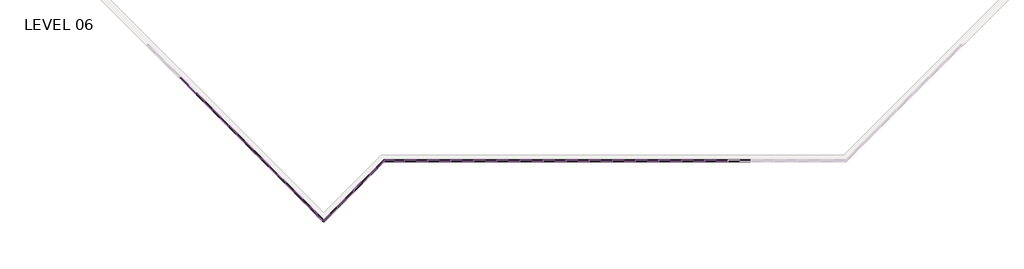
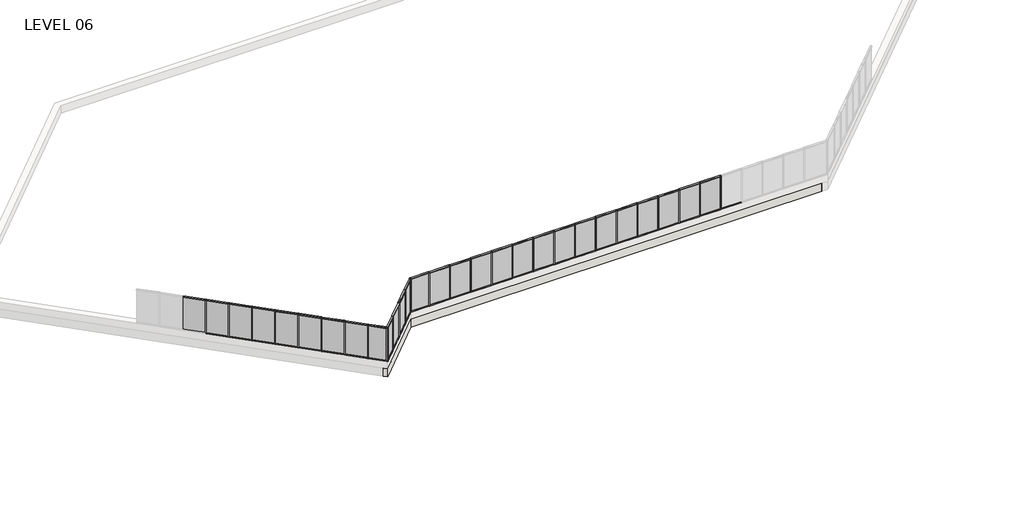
# One storey, part 1 of 17: 86 members, 28 plates, 2 walls.
"""IFC4 building model written with IfcOpenShell, lengths in millimetres."""

from ifc_helpers import new_model, si_unit, origin, place, context, project, spatial, faceted_brep, transform, mapped, element, save
from components import member_5247f267, member_e44af9ab, member_800970d4, member_c23f844a, member_45eb7f2e, member_ed9c17d6, member_53409b32, member_43bac76b, member_0b71a88d, plate_67294edd, plate_50b9cd61, plate_9c66726c, plate_dca6a18a, plate_903242d9, plate_0d1907f3, plate_15429445

model = new_model("IFC4")

# Units and contexts
model_context = context("Model", 3, world=origin())
ifc_project = project(units=[si_unit("LENGTHUNIT", "METRE", prefix="MILLI")], contexts=[model_context])

# Site, building, storey
site = spatial("IfcSite", under=ifc_project)
building = spatial("IfcBuilding", under=site)
storey = spatial("IfcBuildingStorey", under=building, Name="LEVEL 06", Elevation=19596.1)

# Members
placement = place(None, origin())
member_shape = member_5247f267(model_context)
element("IfcMember", 1, ObjectType="Rectangular Mullion : 2\" x 4.5\" rectangular", at=placement, inside=storey, context=model_context, shape_type="MappedRepresentation", body=[
    mapped(member_shape, transform((19945.35, -5092.0171279, 19596.1), x_axis=(0.0, 0.0, -1.0), y_axis=(0.0, -1.0, 0.0), z_axis=(-1.0, 0.0, 0.0))),
])
element("IfcMember", 2, ObjectType="Rectangular Mullion : 2\" x 4.5\" rectangular", at=placement, inside=storey, context=model_context, shape_type="MappedRepresentation", body=[
    mapped(member_shape, transform((21469.35, -5092.0171279, 19596.1), x_axis=(0.0, 0.0, -1.0), y_axis=(0.0, -1.0, 0.0), z_axis=(-1.0, 0.0, 0.0))),
])
element("IfcMember", 3, ObjectType="Rectangular Mullion : 2\" x 4.5\" rectangular", at=placement, inside=storey, context=model_context, shape_type="MappedRepresentation", body=[
    mapped(member_shape, transform((22993.35, -5092.0171279, 19596.1), x_axis=(0.0, 0.0, -1.0), y_axis=(0.0, -1.0, 0.0), z_axis=(-1.0, 0.0, 0.0))),
])
element("IfcMember", 4, ObjectType="Rectangular Mullion : 2\" x 4.5\" rectangular", at=placement, inside=storey, context=model_context, shape_type="MappedRepresentation", body=[
    mapped(member_shape, transform((29089.35, -5092.0171279, 19596.1), x_axis=(0.0, 0.0, -1.0), y_axis=(0.0, -1.0, 0.0), z_axis=(-1.0, 0.0, 0.0))),
])
element("IfcMember", 5, ObjectType="Rectangular Mullion : 2\" x 4.5\" rectangular", at=placement, inside=storey, context=model_context, shape_type="MappedRepresentation", body=[
    mapped(member_shape, transform((30613.35, -5092.0171279, 19596.1), x_axis=(0.0, 0.0, -1.0), y_axis=(0.0, -1.0, 0.0), z_axis=(-1.0, 0.0, 0.0))),
])
element("IfcMember", 6, ObjectType="Rectangular Mullion : 2\" x 4.5\" rectangular", at=placement, inside=storey, context=model_context, shape_type="MappedRepresentation", body=[
    mapped(member_shape, transform((32137.35, -5092.0171279, 19596.1), x_axis=(0.0, 0.0, -1.0), y_axis=(0.0, -1.0, 0.0), z_axis=(-1.0, 0.0, 0.0))),
])
element("IfcMember", 7, ObjectType="Rectangular Mullion : 2\" x 4.5\" rectangular", at=placement, inside=storey, context=model_context, shape_type="MappedRepresentation", body=[
    mapped(member_shape, transform((35185.35, -5092.0171279, 19596.1), x_axis=(0.0, 0.0, -1.0), y_axis=(0.0, -1.0, 0.0), z_axis=(-1.0, 0.0, 0.0))),
])
element("IfcMember", 8, ObjectType="Rectangular Mullion : 2\" x 4.5\" rectangular", at=placement, inside=storey, context=model_context, shape_type="MappedRepresentation", body=[
    mapped(member_shape, transform((36709.35, -5092.0171279, 19596.1), x_axis=(0.0, 0.0, -1.0), y_axis=(0.0, -1.0, 0.0), z_axis=(-1.0, 0.0, 0.0))),
])
element("IfcMember", 9, ObjectType="Rectangular Mullion : 2\" x 4.5\" rectangular", at=placement, inside=storey, context=model_context, shape_type="MappedRepresentation", body=[
    mapped(member_shape, transform((39757.35, -5092.0171279, 19596.1), x_axis=(0.0, 0.0, -1.0), y_axis=(0.0, -1.0, 0.0), z_axis=(-1.0, 0.0, 0.0))),
])
element("IfcMember", 10, ObjectType="Rectangular Mullion : 2\" x 4.5\" rectangular", at=placement, inside=storey, context=model_context, shape_type="MappedRepresentation", body=[
    mapped(member_shape, transform((24517.35, -5092.0171279, 19596.1), x_axis=(0.0, 0.0, -1.0), y_axis=(0.0, -1.0, 0.0), z_axis=(-1.0, 0.0, 0.0))),
])
element("IfcMember", 11, ObjectType="Rectangular Mullion : 2\" x 4.5\" rectangular", at=placement, inside=storey, context=model_context, shape_type="MappedRepresentation", body=[
    mapped(member_shape, transform((27565.35, -5092.0171279, 19596.1), x_axis=(0.0, 0.0, -1.0), y_axis=(0.0, -1.0, 0.0), z_axis=(-1.0, 0.0, 0.0))),
])
element("IfcMember", 12, ObjectType="Rectangular Mullion : 2\" x 4.5\" rectangular", at=placement, inside=storey, context=model_context, shape_type="MappedRepresentation", body=[
    mapped(member_shape, transform((26041.35, -5092.0171279, 19596.1), x_axis=(0.0, 0.0, -1.0), y_axis=(0.0, -1.0, 0.0), z_axis=(-1.0, 0.0, 0.0))),
])
element("IfcMember", 13, ObjectType="Rectangular Mullion : 2\" x 4.5\" rectangular", at=placement, inside=storey, context=model_context, shape_type="MappedRepresentation", body=[
    mapped(member_shape, transform((38233.35, -5092.0171279, 19596.1), x_axis=(0.0, 0.0, -1.0), y_axis=(0.0, -1.0, 0.0), z_axis=(-1.0, 0.0, 0.0))),
])
element("IfcMember", 14, ObjectType="Rectangular Mullion : 2\" x 4.5\" rectangular", at=placement, inside=storey, context=model_context, shape_type="MappedRepresentation", body=[
    mapped(member_shape, transform((33661.35, -5092.0171279, 19596.1), x_axis=(0.0, 0.0, -1.0), y_axis=(0.0, -1.0, 0.0), z_axis=(-1.0, 0.0, 0.0))),
])
element("IfcMember", 15, ObjectType="Rectangular Mullion : 2\" x 4.5\" rectangular", at=placement, inside=storey, context=model_context, shape_type="MappedRepresentation", body=[
    mapped(member_shape, transform((41281.35, -5092.0171279, 19596.1), x_axis=(0.0, 0.0, -1.0), y_axis=(0.0, -1.0, 0.0), z_axis=(-1.0, 0.0, 0.0))),
])
element("IfcMember", 16, ObjectType="Rectangular Mullion : 2\" x 4.5\" rectangular", at=placement, inside=storey, context=model_context, shape_type="MappedRepresentation", body=[
    mapped(member_shape, transform((9409.6310836, -3891.4043471, 19596.1), x_axis=(0.0, 0.0, -1.0), y_axis=(-0.707106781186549, -0.7071067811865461, 0.0), z_axis=(-0.7071067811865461, 0.707106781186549, 0.0))),
])
element("IfcMember", 17, ObjectType="Rectangular Mullion : 2\" x 4.5\" rectangular", at=placement, inside=storey, context=model_context, shape_type="MappedRepresentation", body=[
    mapped(member_shape, transform((10487.2618181, -4969.0350816, 19596.1), x_axis=(0.0, 0.0, -1.0), y_axis=(-0.707106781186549, -0.7071067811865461, 0.0), z_axis=(-0.7071067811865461, 0.707106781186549, 0.0))),
])
element("IfcMember", 18, ObjectType="Rectangular Mullion : 2\" x 4.5\" rectangular", at=placement, inside=storey, context=model_context, shape_type="MappedRepresentation", body=[
    mapped(member_shape, transform((11564.8925527, -6046.6658162, 19596.1), x_axis=(0.0, 0.0, -1.0), y_axis=(-0.707106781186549, -0.7071067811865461, 0.0), z_axis=(-0.7071067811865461, 0.707106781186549, 0.0))),
])
element("IfcMember", 19, ObjectType="Rectangular Mullion : 2\" x 4.5\" rectangular", at=placement, inside=storey, context=model_context, shape_type="MappedRepresentation", body=[
    mapped(member_shape, transform((12642.5232872, -7124.2965507, 19596.1), x_axis=(0.0, 0.0, -1.0), y_axis=(-0.7071067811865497, -0.7071067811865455, 0.0), z_axis=(-0.7071067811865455, 0.7071067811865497, 0.0))),
])
element("IfcMember", 20, ObjectType="Rectangular Mullion : 2\" x 4.5\" rectangular", at=placement, inside=storey, context=model_context, shape_type="MappedRepresentation", body=[
    mapped(member_shape, transform((16592.327111, -7061.3461525, 19596.1), x_axis=(0.0, 0.0, -1.0), y_axis=(0.7071067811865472, -0.7071067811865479, 0.0), z_axis=(-0.7071067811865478, -0.7071067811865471, 0.0))),
])
element("IfcMember", 21, ObjectType="Rectangular Mullion : 2\" x 4.5\" rectangular", at=placement, inside=storey, context=model_context, shape_type="MappedRepresentation", body=[
    mapped(member_shape, transform((15514.6963765, -8138.976887, 19596.1), x_axis=(0.0, 0.0, -1.0), y_axis=(0.7071067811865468, -0.7071067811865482, 0.0), z_axis=(-0.7071067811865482, -0.7071067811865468, 0.0))),
])
element("IfcMember", 22, ObjectType="Rectangular Mullion : 2\" x 4.5\" rectangular", at=placement, inside=storey, context=model_context, shape_type="MappedRepresentation", body=[
    mapped(member_shape, transform((21418.55, -5092.0171279, 22186.9), x_axis=(0.0, 0.0, 1.0), y_axis=(0.0, -1.0, 0.0), z_axis=(1.0, 0.0, 0.0))),
])
element("IfcMember", 23, ObjectType="Rectangular Mullion : 2\" x 4.5\" rectangular", at=placement, inside=storey, context=model_context, shape_type="MappedRepresentation", body=[
    mapped(member_shape, transform((22942.55, -5092.0171279, 22186.9), x_axis=(0.0, 0.0, 1.0), y_axis=(0.0, -1.0, 0.0), z_axis=(1.0, 0.0, 0.0))),
])
element("IfcMember", 24, ObjectType="Rectangular Mullion : 2\" x 4.5\" rectangular", at=placement, inside=storey, context=model_context, shape_type="MappedRepresentation", body=[
    mapped(member_shape, transform((29038.55, -5092.0171279, 22186.9), x_axis=(0.0, 0.0, 1.0), y_axis=(0.0, -1.0, 0.0), z_axis=(1.0, 0.0, 0.0))),
])
element("IfcMember", 25, ObjectType="Rectangular Mullion : 2\" x 4.5\" rectangular", at=placement, inside=storey, context=model_context, shape_type="MappedRepresentation", body=[
    mapped(member_shape, transform((30562.55, -5092.0171279, 22186.9), x_axis=(0.0, 0.0, 1.0), y_axis=(0.0, -1.0, 0.0), z_axis=(1.0, 0.0, 0.0))),
])
element("IfcMember", 26, ObjectType="Rectangular Mullion : 2\" x 4.5\" rectangular", at=placement, inside=storey, context=model_context, shape_type="MappedRepresentation", body=[
    mapped(member_shape, transform((32086.55, -5092.0171279, 22186.9), x_axis=(0.0, 0.0, 1.0), y_axis=(0.0, -1.0, 0.0), z_axis=(1.0, 0.0, 0.0))),
])
element("IfcMember", 27, ObjectType="Rectangular Mullion : 2\" x 4.5\" rectangular", at=placement, inside=storey, context=model_context, shape_type="MappedRepresentation", body=[
    mapped(member_shape, transform((35134.55, -5092.0171279, 22186.9), x_axis=(0.0, 0.0, 1.0), y_axis=(0.0, -1.0, 0.0), z_axis=(1.0, 0.0, 0.0))),
])
element("IfcMember", 28, ObjectType="Rectangular Mullion : 2\" x 4.5\" rectangular", at=placement, inside=storey, context=model_context, shape_type="MappedRepresentation", body=[
    mapped(member_shape, transform((36658.55, -5092.0171279, 22186.9), x_axis=(0.0, 0.0, 1.0), y_axis=(0.0, -1.0, 0.0), z_axis=(1.0, 0.0, 0.0))),
])
element("IfcMember", 29, ObjectType="Rectangular Mullion : 2\" x 4.5\" rectangular", at=placement, inside=storey, context=model_context, shape_type="MappedRepresentation", body=[
    mapped(member_shape, transform((39706.55, -5092.0171279, 22186.9), x_axis=(0.0, 0.0, 1.0), y_axis=(0.0, -1.0, 0.0), z_axis=(1.0, 0.0, 0.0))),
])
element("IfcMember", 30, ObjectType="Rectangular Mullion : 2\" x 4.5\" rectangular", at=placement, inside=storey, context=model_context, shape_type="MappedRepresentation", body=[
    mapped(member_shape, transform((24466.55, -5092.0171279, 22186.9), x_axis=(0.0, 0.0, 1.0), y_axis=(0.0, -1.0, 0.0), z_axis=(1.0, 0.0, 0.0))),
])
element("IfcMember", 31, ObjectType="Rectangular Mullion : 2\" x 4.5\" rectangular", at=placement, inside=storey, context=model_context, shape_type="MappedRepresentation", body=[
    mapped(member_shape, transform((27514.55, -5092.0171279, 22186.9), x_axis=(0.0, 0.0, 1.0), y_axis=(0.0, -1.0, 0.0), z_axis=(1.0, 0.0, 0.0))),
])
element("IfcMember", 32, ObjectType="Rectangular Mullion : 2\" x 4.5\" rectangular", at=placement, inside=storey, context=model_context, shape_type="MappedRepresentation", body=[
    mapped(member_shape, transform((25990.55, -5092.0171279, 22186.9), x_axis=(0.0, 0.0, 1.0), y_axis=(0.0, -1.0, 0.0), z_axis=(1.0, 0.0, 0.0))),
])
element("IfcMember", 33, ObjectType="Rectangular Mullion : 2\" x 4.5\" rectangular", at=placement, inside=storey, context=model_context, shape_type="MappedRepresentation", body=[
    mapped(member_shape, transform((38182.55, -5092.0171279, 22186.9), x_axis=(0.0, 0.0, 1.0), y_axis=(0.0, -1.0, 0.0), z_axis=(1.0, 0.0, 0.0))),
])
element("IfcMember", 34, ObjectType="Rectangular Mullion : 2\" x 4.5\" rectangular", at=placement, inside=storey, context=model_context, shape_type="MappedRepresentation", body=[
    mapped(member_shape, transform((33610.55, -5092.0171279, 22186.9), x_axis=(0.0, 0.0, 1.0), y_axis=(0.0, -1.0, 0.0), z_axis=(1.0, 0.0, 0.0))),
])
element("IfcMember", 35, ObjectType="Rectangular Mullion : 2\" x 4.5\" rectangular", at=placement, inside=storey, context=model_context, shape_type="MappedRepresentation", body=[
    mapped(member_shape, transform((41230.55, -5092.0171279, 22186.9), x_axis=(0.0, 0.0, 1.0), y_axis=(0.0, -1.0, 0.0), z_axis=(1.0, 0.0, 0.0))),
])
element("IfcMember", 36, ObjectType="Rectangular Mullion : 2\" x 4.5\" rectangular", at=placement, inside=storey, context=model_context, shape_type="MappedRepresentation", body=[
    mapped(member_shape, transform((10451.3407936, -4933.1140572, 22186.9), x_axis=(0.0, 0.0, 1.0), y_axis=(-0.707106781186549, -0.7071067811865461, 0.0), z_axis=(0.7071067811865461, -0.707106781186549, 0.0))),
])
element("IfcMember", 37, ObjectType="Rectangular Mullion : 2\" x 4.5\" rectangular", at=placement, inside=storey, context=model_context, shape_type="MappedRepresentation", body=[
    mapped(member_shape, transform((11528.9715282, -6010.7447917, 22186.9), x_axis=(0.0, 0.0, 1.0), y_axis=(-0.707106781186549, -0.7071067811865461, 0.0), z_axis=(0.7071067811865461, -0.707106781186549, 0.0))),
])
element("IfcMember", 38, ObjectType="Rectangular Mullion : 2\" x 4.5\" rectangular", at=placement, inside=storey, context=model_context, shape_type="MappedRepresentation", body=[
    mapped(member_shape, transform((12606.6022627, -7088.3755262, 22186.9), x_axis=(0.0, 0.0, 1.0), y_axis=(-0.707106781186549, -0.7071067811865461, 0.0), z_axis=(0.7071067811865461, -0.707106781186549, 0.0))),
])
element("IfcMember", 39, ObjectType="Rectangular Mullion : 2\" x 4.5\" rectangular", at=placement, inside=storey, context=model_context, shape_type="MappedRepresentation", body=[
    mapped(member_shape, transform((13684.2329972, -8166.0062607, 22186.9), x_axis=(0.0, 0.0, 1.0), y_axis=(-0.7071067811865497, -0.7071067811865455, 0.0), z_axis=(0.7071067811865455, -0.7071067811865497, 0.0))),
])
element("IfcMember", 40, ObjectType="Rectangular Mullion : 2\" x 4.5\" rectangular", at=placement, inside=storey, context=model_context, shape_type="MappedRepresentation", body=[
    mapped(member_shape, transform((16556.4060865, -7097.267177, 22186.9), x_axis=(0.0, 0.0, 1.0), y_axis=(0.7071067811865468, -0.7071067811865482, 0.0), z_axis=(0.7071067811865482, 0.7071067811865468, 0.0))),
])
element("IfcMember", 41, ObjectType="Rectangular Mullion : 2\" x 4.5\" rectangular", at=placement, inside=storey, context=model_context, shape_type="MappedRepresentation", body=[
    mapped(member_shape, transform((17634.036821, -6019.6364425, 22186.9), x_axis=(0.0, 0.0, 1.0), y_axis=(0.7071067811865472, -0.7071067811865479, 0.0), z_axis=(0.7071067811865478, 0.7071067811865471, 0.0))),
])
member_2_shape = member_e44af9ab(model_context)
element("IfcMember", 42, ObjectType="Rectangular Mullion : 2\" x 4.5\" rectangular", at=placement, inside=storey, context=model_context, shape_type="MappedRepresentation", body=[
    mapped(member_2_shape, transform((19919.95, -5092.0171279, 19596.1), x_axis=(1.0, 0.0, 0.0), y_axis=(0.0, -1.0, 0.0), z_axis=(0.0, 0.0, -1.0))),
])
element("IfcMember", 43, ObjectType="Rectangular Mullion : 2\" x 4.5\" rectangular", at=placement, inside=storey, context=model_context, shape_type="MappedRepresentation", body=[
    mapped(member_2_shape, transform((21443.95, -5092.0171279, 19596.1), x_axis=(1.0, 0.0, 0.0), y_axis=(0.0, -1.0, 0.0), z_axis=(0.0, 0.0, -1.0))),
])
element("IfcMember", 44, ObjectType="Rectangular Mullion : 2\" x 4.5\" rectangular", at=placement, inside=storey, context=model_context, shape_type="MappedRepresentation", body=[
    mapped(member_2_shape, transform((22967.95, -5092.0171279, 19596.1), x_axis=(1.0, 0.0, 0.0), y_axis=(0.0, -1.0, 0.0), z_axis=(0.0, 0.0, -1.0))),
])
element("IfcMember", 45, ObjectType="Rectangular Mullion : 2\" x 4.5\" rectangular", at=placement, inside=storey, context=model_context, shape_type="MappedRepresentation", body=[
    mapped(member_2_shape, transform((29063.95, -5092.0171279, 19596.1), x_axis=(1.0, 0.0, 0.0), y_axis=(0.0, -1.0, 0.0), z_axis=(0.0, 0.0, -1.0))),
])
element("IfcMember", 46, ObjectType="Rectangular Mullion : 2\" x 4.5\" rectangular", at=placement, inside=storey, context=model_context, shape_type="MappedRepresentation", body=[
    mapped(member_2_shape, transform((30587.95, -5092.0171279, 19596.1), x_axis=(1.0, 0.0, 0.0), y_axis=(0.0, -1.0, 0.0), z_axis=(0.0, 0.0, -1.0))),
])
element("IfcMember", 47, ObjectType="Rectangular Mullion : 2\" x 4.5\" rectangular", at=placement, inside=storey, context=model_context, shape_type="MappedRepresentation", body=[
    mapped(member_2_shape, transform((32111.95, -5092.0171279, 19596.1), x_axis=(1.0, 0.0, 0.0), y_axis=(0.0, -1.0, 0.0), z_axis=(0.0, 0.0, -1.0))),
])
element("IfcMember", 48, ObjectType="Rectangular Mullion : 2\" x 4.5\" rectangular", at=placement, inside=storey, context=model_context, shape_type="MappedRepresentation", body=[
    mapped(member_2_shape, transform((35159.95, -5092.0171279, 19596.1), x_axis=(1.0, 0.0, 0.0), y_axis=(0.0, -1.0, 0.0), z_axis=(0.0, 0.0, -1.0))),
])
element("IfcMember", 49, ObjectType="Rectangular Mullion : 2\" x 4.5\" rectangular", at=placement, inside=storey, context=model_context, shape_type="MappedRepresentation", body=[
    mapped(member_2_shape, transform((36683.95, -5092.0171279, 19596.1), x_axis=(1.0, 0.0, 0.0), y_axis=(0.0, -1.0, 0.0), z_axis=(0.0, 0.0, -1.0))),
])
element("IfcMember", 50, ObjectType="Rectangular Mullion : 2\" x 4.5\" rectangular", at=placement, inside=storey, context=model_context, shape_type="MappedRepresentation", body=[
    mapped(member_2_shape, transform((39731.95, -5092.0171279, 19596.1), x_axis=(1.0, 0.0, 0.0), y_axis=(0.0, -1.0, 0.0), z_axis=(0.0, 0.0, -1.0))),
])
element("IfcMember", 51, ObjectType="Rectangular Mullion : 2\" x 4.5\" rectangular", at=placement, inside=storey, context=model_context, shape_type="MappedRepresentation", body=[
    mapped(member_2_shape, transform((24491.95, -5092.0171279, 19596.1), x_axis=(1.0, 0.0, 0.0), y_axis=(0.0, -1.0, 0.0), z_axis=(0.0, 0.0, -1.0))),
])
element("IfcMember", 52, ObjectType="Rectangular Mullion : 2\" x 4.5\" rectangular", at=placement, inside=storey, context=model_context, shape_type="MappedRepresentation", body=[
    mapped(member_2_shape, transform((27539.95, -5092.0171279, 19596.1), x_axis=(1.0, 0.0, 0.0), y_axis=(0.0, -1.0, 0.0), z_axis=(0.0, 0.0, -1.0))),
])
element("IfcMember", 53, ObjectType="Rectangular Mullion : 2\" x 4.5\" rectangular", at=placement, inside=storey, context=model_context, shape_type="MappedRepresentation", body=[
    mapped(member_2_shape, transform((26015.95, -5092.0171279, 19596.1), x_axis=(1.0, 0.0, 0.0), y_axis=(0.0, -1.0, 0.0), z_axis=(0.0, 0.0, -1.0))),
])
element("IfcMember", 54, ObjectType="Rectangular Mullion : 2\" x 4.5\" rectangular", at=placement, inside=storey, context=model_context, shape_type="MappedRepresentation", body=[
    mapped(member_2_shape, transform((38207.95, -5092.0171279, 19596.1), x_axis=(1.0, 0.0, 0.0), y_axis=(0.0, -1.0, 0.0), z_axis=(0.0, 0.0, -1.0))),
])
element("IfcMember", 55, ObjectType="Rectangular Mullion : 2\" x 4.5\" rectangular", at=placement, inside=storey, context=model_context, shape_type="MappedRepresentation", body=[
    mapped(member_2_shape, transform((33635.95, -5092.0171279, 19596.1), x_axis=(1.0, 0.0, 0.0), y_axis=(0.0, -1.0, 0.0), z_axis=(0.0, 0.0, -1.0))),
])
element("IfcMember", 56, ObjectType="Rectangular Mullion : 2\" x 4.5\" rectangular", at=placement, inside=storey, context=model_context, shape_type="MappedRepresentation", body=[
    mapped(member_2_shape, transform((41255.95, -5092.0171279, 19596.1), x_axis=(1.0, 0.0, 0.0), y_axis=(0.0, -1.0, 0.0), z_axis=(0.0, 0.0, -1.0))),
])
element("IfcMember", 57, ObjectType="Rectangular Mullion : 2\" x 4.5\" rectangular", at=placement, inside=storey, context=model_context, shape_type="MappedRepresentation", body=[
    mapped(member_2_shape, transform((6176.740342, -658.5136055, 19596.1), x_axis=(0.7071067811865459, -0.7071067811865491, 0.0), y_axis=(-0.7071067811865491, -0.7071067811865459, 0.0), z_axis=(0.0, 0.0, -1.0))),
])
element("IfcMember", 58, ObjectType="Rectangular Mullion : 2\" x 4.5\" rectangular", at=placement, inside=storey, context=model_context, shape_type="MappedRepresentation", body=[
    mapped(member_2_shape, transform((7248.3837518, -1730.1570153, 19596.1), x_axis=(0.7071067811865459, -0.7071067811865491, 0.0), y_axis=(-0.7071067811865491, -0.7071067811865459, 0.0), z_axis=(0.0, 0.0, -1.0))),
])
element("IfcMember", 59, ObjectType="Rectangular Mullion : 2\" x 4.5\" rectangular", at=placement, inside=storey, context=model_context, shape_type="MappedRepresentation", body=[
    mapped(member_2_shape, transform((8320.0271616, -2801.8004251, 19596.1), x_axis=(0.7071067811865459, -0.7071067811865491, 0.0), y_axis=(-0.7071067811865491, -0.7071067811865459, 0.0), z_axis=(0.0, 0.0, -1.0))),
])
element("IfcMember", 60, ObjectType="Rectangular Mullion : 2\" x 4.5\" rectangular", at=placement, inside=storey, context=model_context, shape_type="MappedRepresentation", body=[
    mapped(member_2_shape, transform((9391.6705714, -3873.4438349, 19596.1), x_axis=(0.7071067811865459, -0.7071067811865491, 0.0), y_axis=(-0.7071067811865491, -0.7071067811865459, 0.0), z_axis=(0.0, 0.0, -1.0))),
])
element("IfcMember", 61, ObjectType="Rectangular Mullion : 2\" x 4.5\" rectangular", at=placement, inside=storey, context=model_context, shape_type="MappedRepresentation", body=[
    mapped(member_2_shape, transform((10469.3013059, -4951.0745694, 19596.1), x_axis=(0.7071067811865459, -0.7071067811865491, 0.0), y_axis=(-0.7071067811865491, -0.7071067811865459, 0.0), z_axis=(0.0, 0.0, -1.0))),
])
element("IfcMember", 62, ObjectType="Rectangular Mullion : 2\" x 4.5\" rectangular", at=placement, inside=storey, context=model_context, shape_type="MappedRepresentation", body=[
    mapped(member_2_shape, transform((11546.9320404, -6028.7053039, 19596.1), x_axis=(0.7071067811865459, -0.7071067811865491, 0.0), y_axis=(-0.7071067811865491, -0.7071067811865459, 0.0), z_axis=(0.0, 0.0, -1.0))),
])
element("IfcMember", 63, ObjectType="Rectangular Mullion : 2\" x 4.5\" rectangular", at=placement, inside=storey, context=model_context, shape_type="MappedRepresentation", body=[
    mapped(member_2_shape, transform((12624.5627749, -7106.3360385, 19596.1), x_axis=(0.7071067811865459, -0.7071067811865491, 0.0), y_axis=(-0.7071067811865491, -0.7071067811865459, 0.0), z_axis=(0.0, 0.0, -1.0))),
])
element("IfcMember", 64, ObjectType="Rectangular Mullion : 2\" x 4.5\" rectangular", at=placement, inside=storey, context=model_context, shape_type="MappedRepresentation", body=[
    mapped(member_2_shape, transform((13702.1935095, -8183.966773, 19596.1), x_axis=(0.7071067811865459, -0.7071067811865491, 0.0), y_axis=(-0.7071067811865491, -0.7071067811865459, 0.0), z_axis=(0.0, 0.0, -1.0))),
])
element("IfcMember", 65, ObjectType="Rectangular Mullion : 2\" x 4.5\" rectangular", at=placement, inside=storey, context=model_context, shape_type="MappedRepresentation", body=[
    mapped(member_2_shape, transform((16574.3665988, -7079.3066648, 19596.1), x_axis=(0.707106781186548, 0.707106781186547, 0.0), y_axis=(0.707106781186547, -0.707106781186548, 0.0), z_axis=(0.0, 0.0, -1.0))),
])
element("IfcMember", 66, ObjectType="Rectangular Mullion : 2\" x 4.5\" rectangular", at=placement, inside=storey, context=model_context, shape_type="MappedRepresentation", body=[
    mapped(member_2_shape, transform((17651.9973333, -6001.6759302, 19596.1), x_axis=(0.707106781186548, 0.707106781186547, 0.0), y_axis=(0.707106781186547, -0.707106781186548, 0.0), z_axis=(0.0, 0.0, -1.0))),
])
element("IfcMember", 67, ObjectType="Rectangular Mullion : 2\" x 4.5\" rectangular", at=placement, inside=storey, context=model_context, shape_type="MappedRepresentation", body=[
    mapped(member_2_shape, transform((15496.7358642, -8156.9373993, 19596.1), x_axis=(0.707106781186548, 0.707106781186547, 0.0), y_axis=(0.707106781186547, -0.707106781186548, 0.0), z_axis=(0.0, 0.0, -1.0))),
])
member_3_shape = member_800970d4(model_context)
element("IfcMember", 68, ObjectType="Rectangular Mullion : 2\" x 4.5\" rectangular", at=placement, inside=storey, context=model_context, shape_type="MappedRepresentation", body=[
    mapped(member_3_shape, transform((14585.95, -9067.7232635, 19596.1), x_axis=(0.7071067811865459, -0.7071067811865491, 0.0), y_axis=(-0.7071067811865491, -0.7071067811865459, 0.0), z_axis=(0.0, 0.0, -1.0))),
])
element("IfcMember", 69, ObjectType="Rectangular Mullion : 2\" x 4.5\" rectangular", at=placement, inside=storey, context=model_context, shape_type="MappedRepresentation", body=[
    mapped(member_3_shape, transform((18561.6561356, -5092.0171279, 19596.1), x_axis=(0.707106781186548, 0.707106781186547, 0.0), y_axis=(0.707106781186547, -0.707106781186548, 0.0), z_axis=(0.0, 0.0, -1.0))),
])
element("IfcMember", 70, ObjectType="Rectangular Mullion : 2\" x 4.5\" rectangular", at=placement, inside=storey, context=model_context, shape_type="MappedRepresentation", body=[
    mapped(member_3_shape, transform((18561.6561356, -5092.0171279, 22186.9), x_axis=(-1.0, 0.0, 0.0), y_axis=(0.0, -1.0, 0.0), z_axis=(0.0, 0.0, 1.0))),
])
element("IfcMember", 71, ObjectType="Rectangular Mullion : 2\" x 4.5\" rectangular", at=placement, inside=storey, context=model_context, shape_type="MappedRepresentation", body=[
    mapped(member_3_shape, transform((14585.95, -9067.7232635, 22186.9), x_axis=(-0.707106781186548, -0.707106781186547, 0.0), y_axis=(0.707106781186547, -0.707106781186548, 0.0), z_axis=(0.0, 0.0, 1.0))),
])
member_4_shape = member_c23f844a(model_context)
element("IfcMember", 72, ObjectType="Rectangular Mullion : 2\" x 4.5\" rectangular", at=placement, inside=storey, context=model_context, shape_type="MappedRepresentation", body=[
    mapped(member_4_shape, transform((7230.4232395, -1712.196503, 22186.9), x_axis=(0.0, 0.0, 1.0), y_axis=(-0.707106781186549, -0.7071067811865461, 0.0), z_axis=(0.7071067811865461, -0.707106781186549, 0.0))),
])
element("IfcMember", 73, ObjectType="Rectangular Mullion : 2\" x 4.5\" rectangular", at=placement, inside=storey, context=model_context, shape_type="MappedRepresentation", body=[
    mapped(member_4_shape, transform((8302.0666493, -2783.8399128, 22186.9), x_axis=(0.0, 0.0, 1.0), y_axis=(-0.7071067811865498, -0.7071067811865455, 0.0), z_axis=(0.7071067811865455, -0.7071067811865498, 0.0))),
])
element("IfcMember", 74, ObjectType="Rectangular Mullion : 2\" x 4.5\" rectangular", at=placement, inside=storey, context=model_context, shape_type="MappedRepresentation", body=[
    mapped(member_4_shape, transform((9373.7100591, -3855.4833226, 22186.9), x_axis=(0.0, 0.0, 1.0), y_axis=(-0.707106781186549, -0.7071067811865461, 0.0), z_axis=(0.707106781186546, -0.7071067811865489, 0.0))),
])
element("IfcMember", 75, ObjectType="Rectangular Mullion : 2\" x 4.5\" rectangular", at=placement, inside=storey, context=model_context, shape_type="MappedRepresentation", body=[
    mapped(member_4_shape, transform((6194.7008542, -676.4741177, 19596.1), x_axis=(0.0, 0.0, -1.0), y_axis=(-0.7071067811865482, -0.7071067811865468, 0.0), z_axis=(-0.7071067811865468, 0.7071067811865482, 0.0))),
])
element("IfcMember", 76, ObjectType="Rectangular Mullion : 2\" x 4.5\" rectangular", at=placement, inside=storey, context=model_context, shape_type="MappedRepresentation", body=[
    mapped(member_4_shape, transform((7266.344264, -1748.1175275, 19596.1), x_axis=(0.0, 0.0, -1.0), y_axis=(-0.7071067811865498, -0.7071067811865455, 0.0), z_axis=(-0.7071067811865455, 0.7071067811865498, 0.0))),
])
element("IfcMember", 77, ObjectType="Rectangular Mullion : 2\" x 4.5\" rectangular", at=placement, inside=storey, context=model_context, shape_type="MappedRepresentation", body=[
    mapped(member_4_shape, transform((8337.9876738, -2819.7609373, 19596.1), x_axis=(0.0, 0.0, -1.0), y_axis=(-0.707106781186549, -0.7071067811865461, 0.0), z_axis=(-0.707106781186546, 0.7071067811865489, 0.0))),
])
member_5_shape = member_45eb7f2e(model_context)
element("IfcMember", 78, ObjectType="Rectangular Mullion : 2\" x 4.5\" rectangular", at=placement, inside=storey, context=model_context, shape_type="MappedRepresentation", body=[
    mapped(member_5_shape, transform((19894.55, -5092.0171279, 22186.9), x_axis=(0.0, 0.0, 1.0), y_axis=(0.0, -1.0, 0.0), z_axis=(1.0, 0.0, 0.0))),
])
element("IfcMember", 79, ObjectType="Rectangular Mullion : 2\" x 4.5\" rectangular", at=placement, inside=storey, context=model_context, shape_type="MappedRepresentation", body=[
    mapped(member_5_shape, transform((18612.4561356, -5092.0171279, 19596.1), x_axis=(0.0, 0.0, -1.0), y_axis=(0.0, -1.0, 0.0), z_axis=(-1.0, 0.0, 0.0))),
])
member_6_shape = member_ed9c17d6(model_context)
element("IfcMember", 80, ObjectType="Rectangular Mullion : 2\" x 4.5\" rectangular", at=placement, inside=storey, context=model_context, shape_type="MappedRepresentation", body=[
    mapped(member_6_shape, transform((6158.7798297, -640.5530932, 22186.9), x_axis=(0.0, 0.0, 1.0), y_axis=(-0.707106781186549, -0.7071067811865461, 0.0), z_axis=(0.7071067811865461, -0.707106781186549, 0.0))),
])
member_7_shape = member_53409b32(model_context)
element("IfcMember", 81, ObjectType="Rectangular Mullion : 2\" x 4.5\" rectangular", at=placement, inside=storey, context=model_context, shape_type="MappedRepresentation", body=[
    mapped(member_7_shape, transform((14550.0289755, -9031.802239, 22186.9), x_axis=(0.0, 0.0, 1.0), y_axis=(-0.7071067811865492, -0.7071067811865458, 0.0), z_axis=(0.7071067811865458, -0.7071067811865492, 0.0))),
])
element("IfcMember", 82, ObjectType="Rectangular Mullion : 2\" x 4.5\" rectangular", at=placement, inside=storey, context=model_context, shape_type="MappedRepresentation", body=[
    mapped(member_7_shape, transform((13720.1540217, -8201.9272852, 19596.1), x_axis=(0.0, 0.0, -1.0), y_axis=(-0.7071067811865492, -0.7071067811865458, 0.0), z_axis=(-0.7071067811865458, 0.7071067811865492, 0.0))),
])
member_8_shape = member_43bac76b(model_context)
element("IfcMember", 83, ObjectType="Rectangular Mullion : 2\" x 4.5\" rectangular", at=placement, inside=storey, context=model_context, shape_type="MappedRepresentation", body=[
    mapped(member_8_shape, transform((18525.7351111, -5127.9381524, 22186.9), x_axis=(0.0, 0.0, 1.0), y_axis=(0.7071067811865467, -0.7071067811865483, 0.0), z_axis=(0.7071067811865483, 0.7071067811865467, 0.0))),
])
element("IfcMember", 84, ObjectType="Rectangular Mullion : 2\" x 4.5\" rectangular", at=placement, inside=storey, context=model_context, shape_type="MappedRepresentation", body=[
    mapped(member_8_shape, transform((17669.9578455, -5983.715418, 19596.1), x_axis=(0.0, 0.0, -1.0), y_axis=(0.7071067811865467, -0.7071067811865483, 0.0), z_axis=(-0.7071067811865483, -0.7071067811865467, 0.0))),
])
member_9_shape = member_0b71a88d(model_context)
element("IfcMember", 85, ObjectType="Rectangular Mullion : 2\" x 4.5\" rectangular", at=placement, inside=storey, context=model_context, shape_type="MappedRepresentation", body=[
    mapped(member_9_shape, transform((14621.8710245, -9031.802239, 19596.1), x_axis=(0.0, 0.0, -1.0), y_axis=(0.7071067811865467, -0.7071067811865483, 0.0), z_axis=(-0.7071067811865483, -0.7071067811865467, 0.0))),
])
element("IfcMember", 86, ObjectType="Rectangular Mullion : 2\" x 4.5\" rectangular", at=placement, inside=storey, context=model_context, shape_type="MappedRepresentation", body=[
    mapped(member_9_shape, transform((15478.775352, -8174.8979115, 22186.9), x_axis=(0.0, 0.0, 1.0), y_axis=(0.7071067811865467, -0.7071067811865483, 0.0), z_axis=(0.7071067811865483, 0.7071067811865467, 0.0))),
])

# Plates
plate_shape = plate_67294edd(model_context)
element("IfcPlate", 87, ObjectType="System Panel : 1/4\" Glass", at=placement, inside=storey, context=model_context, shape_type="MappedRepresentation", body=[
    mapped(plate_shape, transform((20681.95, -5092.0171279, 19646.9), x_axis=(1.0, 0.0, 0.0), y_axis=(0.0, 1.0, 0.0), z_axis=(0.0, 0.0, 1.0))),
])
element("IfcPlate", 88, ObjectType="System Panel : 1/4\" Glass", at=placement, inside=storey, context=model_context, shape_type="MappedRepresentation", body=[
    mapped(plate_shape, transform((22205.95, -5092.0171279, 19646.9), x_axis=(1.0, 0.0, 0.0), y_axis=(0.0, 1.0, 0.0), z_axis=(0.0, 0.0, 1.0))),
])
element("IfcPlate", 89, ObjectType="System Panel : 1/4\" Glass", at=placement, inside=storey, context=model_context, shape_type="MappedRepresentation", body=[
    mapped(plate_shape, transform((23729.95, -5092.0171279, 19646.9), x_axis=(1.0, 0.0, 0.0), y_axis=(0.0, 1.0, 0.0), z_axis=(0.0, 0.0, 1.0))),
])
element("IfcPlate", 90, ObjectType="System Panel : 1/4\" Glass", at=placement, inside=storey, context=model_context, shape_type="MappedRepresentation", body=[
    mapped(plate_shape, transform((29825.95, -5092.0171279, 19646.9), x_axis=(1.0, 0.0, 0.0), y_axis=(0.0, 1.0, 0.0), z_axis=(0.0, 0.0, 1.0))),
])
element("IfcPlate", 91, ObjectType="System Panel : 1/4\" Glass", at=placement, inside=storey, context=model_context, shape_type="MappedRepresentation", body=[
    mapped(plate_shape, transform((31349.95, -5092.0171279, 19646.9), x_axis=(1.0, 0.0, 0.0), y_axis=(0.0, 1.0, 0.0), z_axis=(0.0, 0.0, 1.0))),
])
element("IfcPlate", 92, ObjectType="System Panel : 1/4\" Glass", at=placement, inside=storey, context=model_context, shape_type="MappedRepresentation", body=[
    mapped(plate_shape, transform((32873.95, -5092.0171279, 19646.9), x_axis=(1.0, 0.0, 0.0), y_axis=(0.0, 1.0, 0.0), z_axis=(0.0, 0.0, 1.0))),
])
element("IfcPlate", 93, ObjectType="System Panel : 1/4\" Glass", at=placement, inside=storey, context=model_context, shape_type="MappedRepresentation", body=[
    mapped(plate_shape, transform((35921.95, -5092.0171279, 19646.9), x_axis=(1.0, 0.0, 0.0), y_axis=(0.0, 1.0, 0.0), z_axis=(0.0, 0.0, 1.0))),
])
element("IfcPlate", 94, ObjectType="System Panel : 1/4\" Glass", at=placement, inside=storey, context=model_context, shape_type="MappedRepresentation", body=[
    mapped(plate_shape, transform((37445.95, -5092.0171279, 19646.9), x_axis=(1.0, 0.0, 0.0), y_axis=(0.0, 1.0, 0.0), z_axis=(0.0, 0.0, 1.0))),
])
element("IfcPlate", 95, ObjectType="System Panel : 1/4\" Glass", at=placement, inside=storey, context=model_context, shape_type="MappedRepresentation", body=[
    mapped(plate_shape, transform((40493.95, -5092.0171279, 19646.9), x_axis=(1.0, 0.0, 0.0), y_axis=(0.0, 1.0, 0.0), z_axis=(0.0, 0.0, 1.0))),
])
element("IfcPlate", 96, ObjectType="System Panel : 1/4\" Glass", at=placement, inside=storey, context=model_context, shape_type="MappedRepresentation", body=[
    mapped(plate_shape, transform((25253.95, -5092.0171279, 19646.9), x_axis=(1.0, 0.0, 0.0), y_axis=(0.0, 1.0, 0.0), z_axis=(0.0, 0.0, 1.0))),
])
element("IfcPlate", 97, ObjectType="System Panel : 1/4\" Glass", at=placement, inside=storey, context=model_context, shape_type="MappedRepresentation", body=[
    mapped(plate_shape, transform((28301.95, -5092.0171279, 19646.9), x_axis=(1.0, 0.0, 0.0), y_axis=(0.0, 1.0, 0.0), z_axis=(0.0, 0.0, 1.0))),
])
element("IfcPlate", 98, ObjectType="System Panel : 1/4\" Glass", at=placement, inside=storey, context=model_context, shape_type="MappedRepresentation", body=[
    mapped(plate_shape, transform((26777.95, -5092.0171279, 19646.9), x_axis=(1.0, 0.0, 0.0), y_axis=(0.0, 1.0, 0.0), z_axis=(0.0, 0.0, 1.0))),
])
element("IfcPlate", 99, ObjectType="System Panel : 1/4\" Glass", at=placement, inside=storey, context=model_context, shape_type="MappedRepresentation", body=[
    mapped(plate_shape, transform((38969.95, -5092.0171279, 19646.9), x_axis=(1.0, 0.0, 0.0), y_axis=(0.0, 1.0, 0.0), z_axis=(0.0, 0.0, 1.0))),
])
element("IfcPlate", 100, ObjectType="System Panel : 1/4\" Glass", at=placement, inside=storey, context=model_context, shape_type="MappedRepresentation", body=[
    mapped(plate_shape, transform((34397.95, -5092.0171279, 19646.9), x_axis=(1.0, 0.0, 0.0), y_axis=(0.0, 1.0, 0.0), z_axis=(0.0, 0.0, 1.0))),
])
element("IfcPlate", 101, ObjectType="System Panel : 1/4\" Glass", at=placement, inside=storey, context=model_context, shape_type="MappedRepresentation", body=[
    mapped(plate_shape, transform((9930.4859386, -4412.2592021, 19646.9), x_axis=(0.7071067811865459, -0.7071067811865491, 0.0), y_axis=(0.7071067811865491, 0.7071067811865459, 0.0), z_axis=(0.0, 0.0, 1.0))),
])
element("IfcPlate", 102, ObjectType="System Panel : 1/4\" Glass", at=placement, inside=storey, context=model_context, shape_type="MappedRepresentation", body=[
    mapped(plate_shape, transform((11008.1166732, -5489.8899367, 19646.9), x_axis=(0.7071067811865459, -0.7071067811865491, 0.0), y_axis=(0.7071067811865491, 0.7071067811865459, 0.0), z_axis=(0.0, 0.0, 1.0))),
])
element("IfcPlate", 103, ObjectType="System Panel : 1/4\" Glass", at=placement, inside=storey, context=model_context, shape_type="MappedRepresentation", body=[
    mapped(plate_shape, transform((12085.7474077, -6567.5206712, 19646.9), x_axis=(0.7071067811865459, -0.7071067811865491, 0.0), y_axis=(0.7071067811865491, 0.7071067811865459, 0.0), z_axis=(0.0, 0.0, 1.0))),
])
element("IfcPlate", 104, ObjectType="System Panel : 1/4\" Glass", at=placement, inside=storey, context=model_context, shape_type="MappedRepresentation", body=[
    mapped(plate_shape, transform((13163.3781422, -7645.1514057, 19646.9), x_axis=(0.7071067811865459, -0.7071067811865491, 0.0), y_axis=(0.7071067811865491, 0.7071067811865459, 0.0), z_axis=(0.0, 0.0, 1.0))),
])
element("IfcPlate", 105, ObjectType="System Panel : 1/4\" Glass", at=placement, inside=storey, context=model_context, shape_type="MappedRepresentation", body=[
    mapped(plate_shape, transform((17113.181966, -6540.4912975, 19646.9), x_axis=(0.707106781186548, 0.707106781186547, 0.0), y_axis=(-0.707106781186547, 0.707106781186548, 0.0), z_axis=(0.0, 0.0, 1.0))),
])
element("IfcPlate", 106, ObjectType="System Panel : 1/4\" Glass", at=placement, inside=storey, context=model_context, shape_type="MappedRepresentation", body=[
    mapped(plate_shape, transform((16035.5512315, -7618.122032, 19646.9), x_axis=(0.707106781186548, 0.707106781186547, 0.0), y_axis=(-0.707106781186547, 0.707106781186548, 0.0), z_axis=(0.0, 0.0, 1.0))),
])
plate_2_shape = plate_50b9cd61(model_context)
element("IfcPlate", 107, ObjectType="System Panel : 1/4\" Glass", at=placement, inside=storey, context=model_context, shape_type="MappedRepresentation", body=[
    mapped(plate_2_shape, transform((6712.5620469, -1194.3353104, 19646.9), x_axis=(0.7071067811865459, -0.7071067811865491, 0.0), y_axis=(0.7071067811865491, 0.7071067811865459, 0.0), z_axis=(0.0, 0.0, 1.0))),
])
element("IfcPlate", 108, ObjectType="System Panel : 1/4\" Glass", at=placement, inside=storey, context=model_context, shape_type="MappedRepresentation", body=[
    mapped(plate_2_shape, transform((7784.2054567, -2265.9787202, 19646.9), x_axis=(0.7071067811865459, -0.7071067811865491, 0.0), y_axis=(0.7071067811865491, 0.7071067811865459, 0.0), z_axis=(0.0, 0.0, 1.0))),
])
element("IfcPlate", 109, ObjectType="System Panel : 1/4\" Glass", at=placement, inside=storey, context=model_context, shape_type="MappedRepresentation", body=[
    mapped(plate_2_shape, transform((8855.8488665, -3337.62213, 19646.9), x_axis=(0.7071067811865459, -0.7071067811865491, 0.0), y_axis=(0.7071067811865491, 0.7071067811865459, 0.0), z_axis=(0.0, 0.0, 1.0))),
])
plate_3_shape = plate_9c66726c(model_context)
element("IfcPlate", 110, ObjectType="System Panel : 1/4\" Glass", at=placement, inside=storey, context=model_context, shape_type="MappedRepresentation", body=[
    mapped(plate_3_shape, transform((19253.5030678, -5092.0171279, 19646.9), x_axis=(1.0, 0.0, 0.0), y_axis=(0.0, 1.0, 0.0), z_axis=(0.0, 0.0, 1.0))),
])
plate_4_shape = plate_dca6a18a(model_context)
element("IfcPlate", 111, ObjectType="System Panel : 1/4\" Glass", at=placement, inside=storey, context=model_context, shape_type="MappedRepresentation", body=[
    mapped(plate_4_shape, transform((5639.4307395, -121.204003, 19646.9), x_axis=(0.7071067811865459, -0.7071067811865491, 0.0), y_axis=(0.7071067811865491, 0.7071067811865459, 0.0), z_axis=(0.0, 0.0, 1.0))),
])
plate_5_shape = plate_903242d9(model_context)
element("IfcPlate", 112, ObjectType="System Panel : 1/4\" Glass", at=placement, inside=storey, context=model_context, shape_type="MappedRepresentation", body=[
    mapped(plate_5_shape, transform((14135.0914986, -8616.8647621, 19646.9), x_axis=(0.7071067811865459, -0.7071067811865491, 0.0), y_axis=(0.7071067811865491, 0.7071067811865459, 0.0), z_axis=(0.0, 0.0, 1.0))),
])
plate_6_shape = plate_0d1907f3(model_context)
element("IfcPlate", 113, ObjectType="System Panel : 1/4\" Glass", at=placement, inside=storey, context=model_context, shape_type="MappedRepresentation", body=[
    mapped(plate_6_shape, transform((18097.8464783, -5555.8267852, 19646.9), x_axis=(0.707106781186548, 0.707106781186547, 0.0), y_axis=(-0.707106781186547, 0.707106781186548, 0.0), z_axis=(0.0, 0.0, 1.0))),
])
plate_7_shape = plate_15429445(model_context)
element("IfcPlate", 114, ObjectType="System Panel : 1/4\" Glass", at=placement, inside=storey, context=model_context, shape_type="MappedRepresentation", body=[
    mapped(plate_7_shape, transform((15050.3231882, -8603.3500753, 19646.9), x_axis=(0.707106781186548, 0.707106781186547, 0.0), y_axis=(-0.707106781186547, 0.707106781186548, 0.0), z_axis=(0.0, 0.0, 1.0))),
])

# Walls
element("IfcWall", 115, ObjectType="01-CONCRETE-12", at=placement, inside=storey, context=model_context, shape_type="Brep", body=[
    faceted_brep([(48939.0761469, -4844.3671279, 18415.0), (18459.0761469, -4844.3671279, 18415.0), (18459.0761469, -4844.3671279, 19037.3), (48939.0761469, -4844.3671279, 19037.3), (48634.2761469, -5149.1671279, 18415.0), (48634.2761469, -5149.1671279, 19037.3), (18585.3284407, -5149.1671279, 19037.3), (18154.2761469, -5149.1671279, 19037.3), (18154.2761469, -5149.1671279, 18415.0), (18585.3284407, -5149.1671279, 18415.0)], [[[0, 1, 2, 3]], [[4, 5, 6, 7, 8, 9]], [[1, 0, 4, 9, 8]], [[3, 2, 7, 6, 5]], [[0, 3, 5, 4]], [[2, 1, 8, 7]]]),
])
element("IfcWall", 116, ObjectType="01-CONCRETE-12", at=placement, inside=storey, context=model_context, shape_type="Brep", body=[
    faceted_brep([(18154.2761469, -5149.1671279, 18415.0), (14585.95, -8717.4932748, 18415.0), (14370.4238531, -8933.0194217, 18415.0), (14370.4238531, -8933.0194217, 19037.3), (14585.95, -8717.4932748, 19037.3), (18154.2761469, -5149.1671279, 19037.3), (18585.3284407, -5149.1671279, 18415.0), (18585.3284407, -5149.1671279, 19037.3), (14585.95, -9148.5455686, 19037.3), (14585.95, -9148.5455686, 18415.0)], [[[0, 1, 2, 3, 4, 5]], [[6, 7, 8, 9]], [[2, 1, 0, 6, 9]], [[5, 4, 3, 8, 7]], [[0, 5, 7, 6]], [[3, 2, 9, 8]]]),
])

save(model, "model.ifc")
